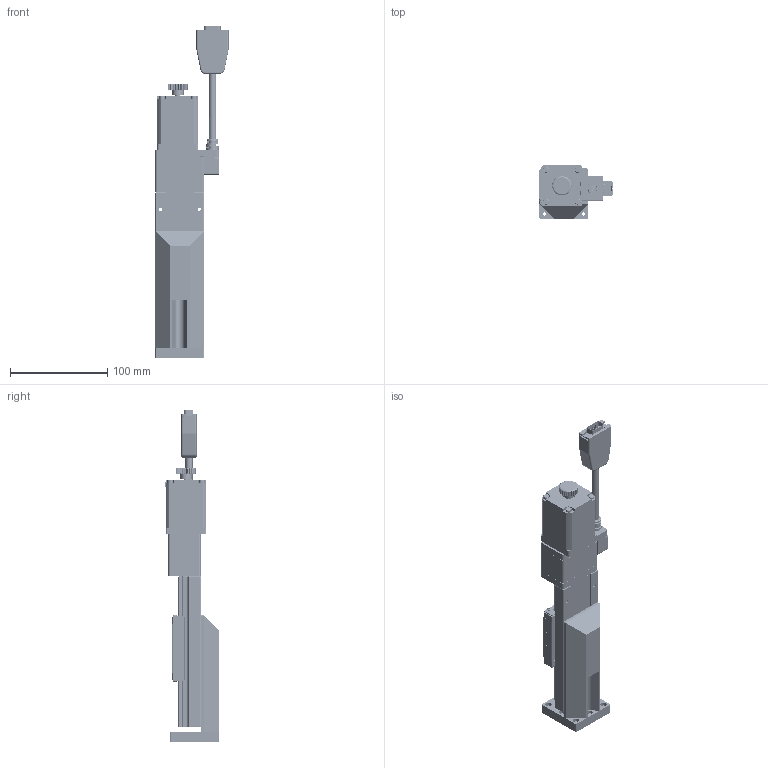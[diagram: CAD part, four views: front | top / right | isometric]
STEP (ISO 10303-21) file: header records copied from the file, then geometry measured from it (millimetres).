
FILE_DESCRIPTION (( 'STEP AP203' ), '1' );
FILE_NAME ('CZLN5075.STEP', '2023-11-28T00:35:50', ( '' ), ( '' ), 'SwSTEP 2.0', 'SolidWorks 2019', '' );
FILE_SCHEMA (( 'CONFIG_CONTROL_DESIGN' ));
Length unit declared in the file: millimetre
Products named in the file (8): Group1^CZLN5075-S2?N(2023新版)_defeature_GMT; Group2^CZLN5075-S2?N(2023新版)_defeature_GMT; CMZB50-3; AMZB50-1; SC03B012_SCM435(化鎳後耐落); CZLN5075; CMZB50; SC04B012_SCM435(化鎳)
Assembly tree (13 placements, depth 3):
  CZLN5075
    Group1^CZLN5075-S2?N(2023新版)_defeature_GMT
    Group2^CZLN5075-S2?N(2023新版)_defeature_GMT
    CMZB50
      AMZB50-1
      CMZB50-3
      SC04B012_SCM435(化鎳)  x2
    SC03B012_SCM435(化鎳後耐落)  x6
Bounding box: 75 x 54.7 x 340.6 mm (x, y, z)
Volume: 127185.7 mm3; surface area: 157691.3 mm2
Topology: 12 solids, 100 shells, 8505 faces, 21749 edges, 13474 vertices
Faces by surface type: plane 3464, cylinder 1937, bspline 1503, cone 861, torus 548, sphere 192
Entity records: 278574 total; most frequent: CARTESIAN_POINT 88715, ORIENTED_EDGE 42018, DIRECTION 35162, EDGE_CURVE 21009, VERTEX_POINT 13179, AXIS2_PLACEMENT_3D 12530, VECTOR 10102, LINE 10102
